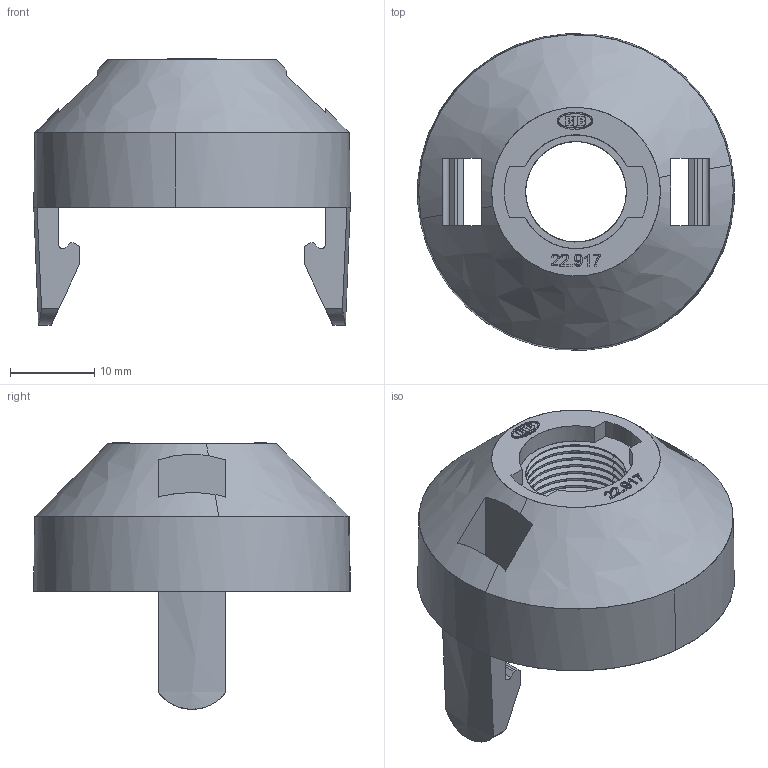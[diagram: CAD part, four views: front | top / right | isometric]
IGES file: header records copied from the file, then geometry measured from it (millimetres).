
Global section: file name: 008YC0DY02.igs; native system: CT CoreTechnologie 3D Evolution; preprocessor: 2.1; date: 050214.083945; units: metre
Bounding box: 37.5 x 37.55 x 31.6 mm (x, y, z)
Surface area: 6542.8 mm2 (no closed solid volume)
Topology: 0 solids, 0 shells, 245 faces, 1240 edges, 1240 vertices
Faces by surface type: bspline 245
